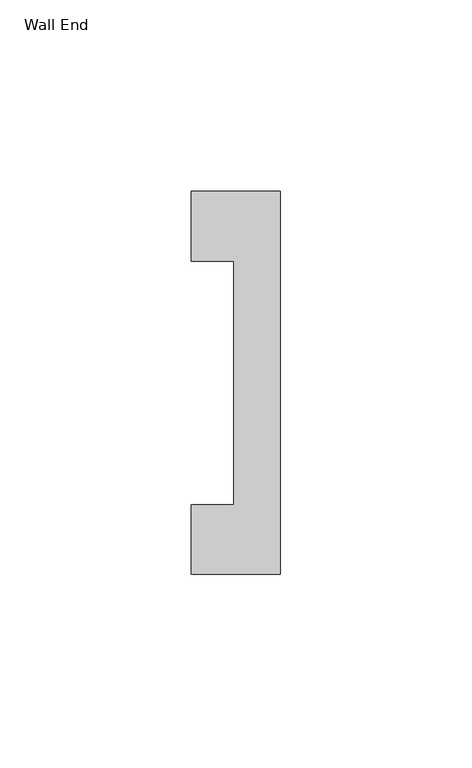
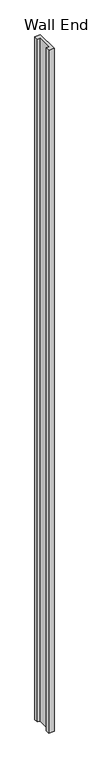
"""IFC4 building model written with IfcOpenShell, lengths in millimetres: proxy geometry, Connection-Teknion-FHCEW-Wal_finishedl_End-R2021 : Wall End."""

from ifc_helpers import new_model, si_unit, origin, origin_with_axes, place, context, project, spatial, polyline, outline, extrude, source, transform, mapped, element, save


def wall_end_94ccb30e(model_context):
    return source(origin(), model_context, "Body", "SweptSolid", [
        extrude(outline(polyline([(-23.241, 50.00625), (0.0, 50.00625), (0.0, -49.9937507), (-23.241, -49.9937507), (-23.241, -31.7438507), (-12.2428, -31.7438507), (-12.2428, 31.75635), (-23.241, 31.75635), (-23.241, 50.00625)])), origin_with_axes(), (0.0, 0.0, 1.0), 3048.0),
    ])


if __name__ == "__main__":
    model = new_model("IFC4")
    model_context = context("Model", 3, world=origin())
    ifc_project = project(units=[si_unit("LENGTHUNIT", "METRE", prefix="MILLI")], contexts=[model_context])
    site = spatial("IfcSite", under=ifc_project)
    building = spatial("IfcBuilding", under=site)
    placement = place(None, origin())
    wall_end_shape = wall_end_94ccb30e(model_context)
    element("IfcBuildingElementProxy", 1, Name="Connection-Teknion-FHCEW-Wal_finishedl_End-R2021 : Wall End", ObjectType="Connection-Teknion-FHCEW-Wal_finishedl_End-R2021 : Wall End", at=placement, inside=building, context=model_context, shape_type="MappedRepresentation", body=[
        mapped(wall_end_shape, transform((0.0, 0.0, 0.0), x_axis=(1.0, 0.0, 0.0), y_axis=(0.0, 1.0, 0.0), z_axis=(0.0, 0.0, 1.0))),
    ])
    save(model, "model.ifc")
